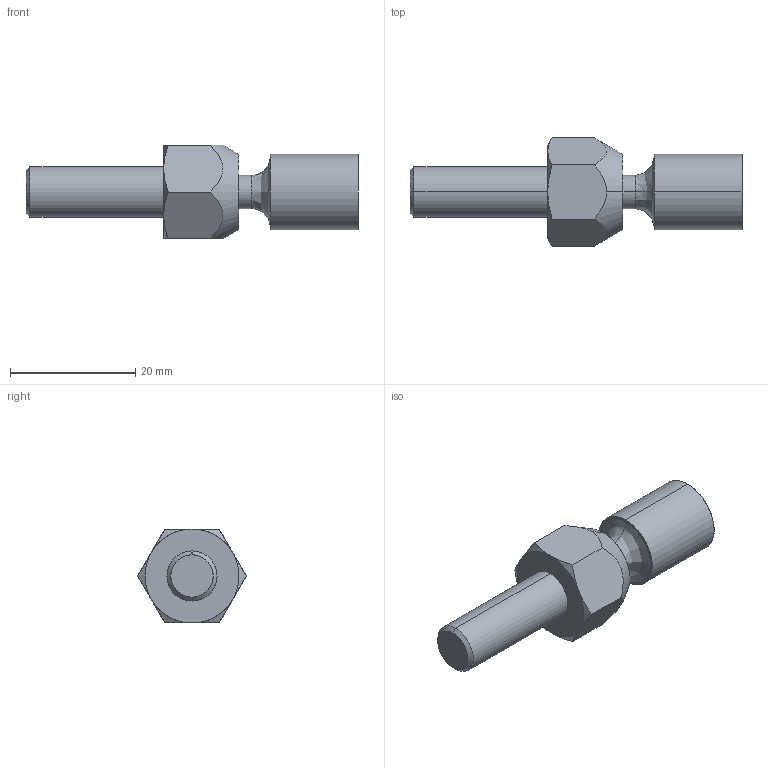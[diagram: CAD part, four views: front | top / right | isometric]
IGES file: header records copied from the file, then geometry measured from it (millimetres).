
Start section: SolidWorks IGES file using analytic representation for surfaces
Bounding box: 53 x 17.32 x 15 mm (x, y, z)
Surface area: 2496.3 mm2 (no closed solid volume)
Topology: 0 solids, 0 shells, 33 faces, 564 edges, 562 vertices
Faces by surface type: revolution 20, bspline 13
